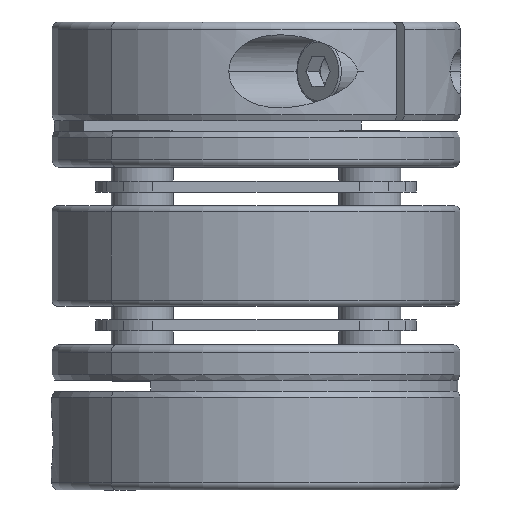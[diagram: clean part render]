
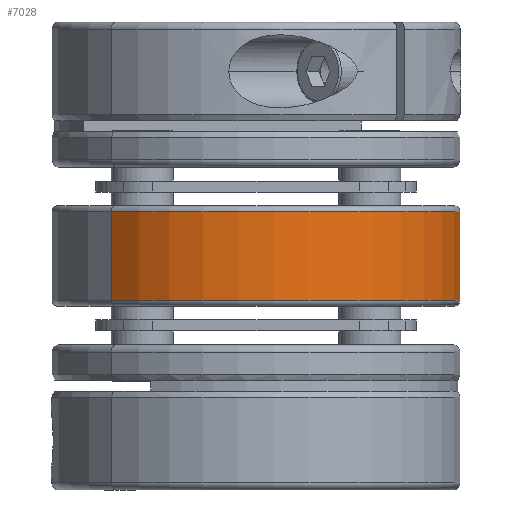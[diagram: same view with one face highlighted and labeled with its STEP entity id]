
A CAD part, front view. The second image highlights one B-rep face of the part: STEP entity #7028.
In plain terms, the highlighted cylindrical face has radius 28 mm (diameter 56 mm), a partial arc.
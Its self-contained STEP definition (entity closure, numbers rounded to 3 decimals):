
#217 = CARTESIAN_POINT ( 'NONE',  ( 28., 0., 6.85 ) ) ;
#310 = VECTOR ( 'NONE', #2089, 1000. ) ;
#364 = CARTESIAN_POINT ( 'NONE',  ( -28., 0., 6.85 ) ) ;
#530 = FACE_OUTER_BOUND ( 'NONE', #6333, .T. ) ;
#602 = DIRECTION ( 'NONE',  ( 0., 0., -1. ) ) ;
#947 = EDGE_CURVE ( 'NONE', #4132, #2646, #5733, .T. ) ;
#1275 = DIRECTION ( 'NONE',  ( 0., 0., 1. ) ) ;
#1611 = CARTESIAN_POINT ( 'NONE',  ( 28., 0., -6.05 ) ) ;
#1655 = EDGE_CURVE ( 'NONE', #6009, #2646, #2458, .T. ) ;
#1794 = DIRECTION ( 'NONE',  ( 1., 0., 0. ) ) ;
#1804 = LINE ( 'NONE', #217, #4847 ) ;
#2089 = DIRECTION ( 'NONE',  ( 0., 0., -1. ) ) ;
#2458 = CIRCLE ( 'NONE', #3743, 28. ) ;
#2461 = AXIS2_PLACEMENT_3D ( 'NONE', #3973, #6139, #3390 ) ;
#2646 = VERTEX_POINT ( 'NONE', #4726 ) ;
#3010 = CARTESIAN_POINT ( 'NONE',  ( 28., 0., 6.05 ) ) ;
#3390 = DIRECTION ( 'NONE',  ( 1., 0., 0. ) ) ;
#3443 = EDGE_CURVE ( 'NONE', #4132, #5440, #4081, .T. ) ;
#3743 = AXIS2_PLACEMENT_3D ( 'NONE', #6217, #1275, #1794 ) ;
#3775 = CARTESIAN_POINT ( 'NONE',  ( 0., 0., 6.85 ) ) ;
#3973 = CARTESIAN_POINT ( 'NONE',  ( 0., 0., 6.05 ) ) ;
#4081 = CIRCLE ( 'NONE', #2461, 28. ) ;
#4132 = VERTEX_POINT ( 'NONE', #6923 ) ;
#4504 = ORIENTED_EDGE ( 'NONE', *, *, #1655, .T. ) ;
#4581 = AXIS2_PLACEMENT_3D ( 'NONE', #3775, #602, #7012 ) ;
#4726 = CARTESIAN_POINT ( 'NONE',  ( -28., 0., -6.05 ) ) ;
#4847 = VECTOR ( 'NONE', #6664, 1000. ) ;
#4955 = CYLINDRICAL_SURFACE ( 'NONE', #4581, 28. ) ;
#5058 = ORIENTED_EDGE ( 'NONE', *, *, #947, .F. ) ;
#5440 = VERTEX_POINT ( 'NONE', #3010 ) ;
#5733 = LINE ( 'NONE', #364, #310 ) ;
#6009 = VERTEX_POINT ( 'NONE', #1611 ) ;
#6139 = DIRECTION ( 'NONE',  ( 0., 0., -1. ) ) ;
#6217 = CARTESIAN_POINT ( 'NONE',  ( 0., 0., -6.05 ) ) ;
#6273 = ORIENTED_EDGE ( 'NONE', *, *, #3443, .T. ) ;
#6333 = EDGE_LOOP ( 'NONE', ( #6273, #6935, #4504, #5058 ) ) ;
#6625 = EDGE_CURVE ( 'NONE', #5440, #6009, #1804, .T. ) ;
#6664 = DIRECTION ( 'NONE',  ( 0., 0., -1. ) ) ;
#6923 = CARTESIAN_POINT ( 'NONE',  ( -28., 0., 6.05 ) ) ;
#6935 = ORIENTED_EDGE ( 'NONE', *, *, #6625, .T. ) ;
#7012 = DIRECTION ( 'NONE',  ( -1., 0., 0. ) ) ;
#7028 = ADVANCED_FACE ( 'NONE', ( #530 ), #4955, .T. ) ;
